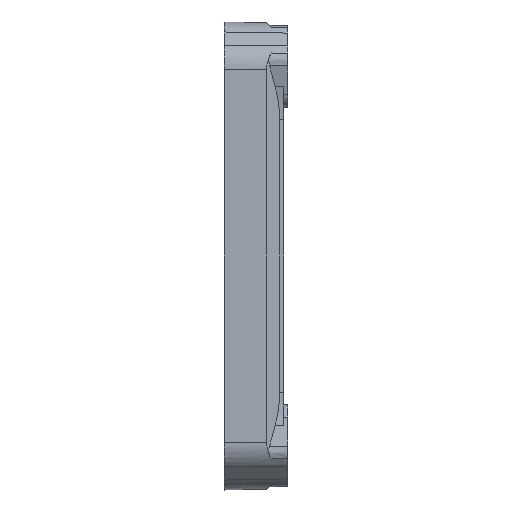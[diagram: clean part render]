
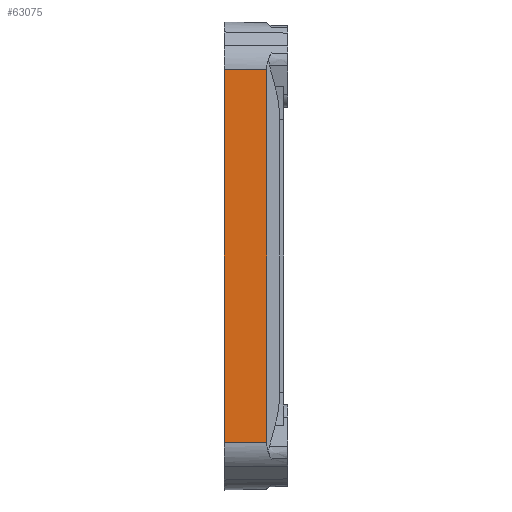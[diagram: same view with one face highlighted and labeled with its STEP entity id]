
A CAD part, left-side view. The second image highlights one B-rep face of the part: STEP entity #63075.
In plain terms, the highlighted planar face has unit normal (-1, -0.018, 0).
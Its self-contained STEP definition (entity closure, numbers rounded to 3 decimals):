
#123 = VERTEX_POINT ( 'NONE', #27839 ) ;
#378 = LINE ( 'NONE', #379, #25651 ) ;
#379 = CARTESIAN_POINT ( 'NONE',  ( -74.825, -10., 47.142 ) ) ;
#3516 = CARTESIAN_POINT ( 'NONE',  ( -74.825, -10., 43.757 ) ) ;
#4997 = LINE ( 'NONE', #42304, #70776 ) ;
#8624 = EDGE_LOOP ( 'NONE', ( #68461, #68052, #39356, #33939 ) ) ;
#14685 = VERTEX_POINT ( 'NONE', #3516 ) ;
#20405 = CARTESIAN_POINT ( 'NONE',  ( -75., 0., 47.142 ) ) ;
#21287 = LINE ( 'NONE', #27147, #36652 ) ;
#25651 = VECTOR ( 'NONE', #74706, 1000. ) ;
#27147 = CARTESIAN_POINT ( 'NONE',  ( -75., 0.024, 43.829 ) ) ;
#27205 = DIRECTION ( 'NONE',  ( 0.017, -1., 0. ) ) ;
#27839 = CARTESIAN_POINT ( 'NONE',  ( -75., 0., -43.829 ) ) ;
#29359 = EDGE_CURVE ( 'NONE', #14685, #56084, #21287, .T. ) ;
#29396 = LINE ( 'NONE', #69046, #40274 ) ;
#31938 = DIRECTION ( 'NONE',  ( -0.017, 1., 0.007 ) ) ;
#33939 = ORIENTED_EDGE ( 'NONE', *, *, #29359, .T. ) ;
#36502 = DIRECTION ( 'NONE',  ( 0.017, -1., 0.007 ) ) ;
#36652 = VECTOR ( 'NONE', #31938, 1000. ) ;
#39356 = ORIENTED_EDGE ( 'NONE', *, *, #68192, .T. ) ;
#40274 = VECTOR ( 'NONE', #57941, 1000. ) ;
#42304 = CARTESIAN_POINT ( 'NONE',  ( -74.989, -0.657, -43.824 ) ) ;
#45703 = CARTESIAN_POINT ( 'NONE',  ( -74.825, -10., -43.757 ) ) ;
#46359 = EDGE_CURVE ( 'NONE', #123, #47634, #4997, .T. ) ;
#47634 = VERTEX_POINT ( 'NONE', #45703 ) ;
#49150 = PLANE ( 'NONE',  #69758 ) ;
#56084 = VERTEX_POINT ( 'NONE', #70863 ) ;
#57941 = DIRECTION ( 'NONE',  ( 0., 0., 1. ) ) ;
#60681 = DIRECTION ( 'NONE',  ( -1., -0.017, 0. ) ) ;
#61982 = FACE_OUTER_BOUND ( 'NONE', #8624, .T. ) ;
#63075 = ADVANCED_FACE ( 'NONE', ( #61982 ), #49150, .T. ) ;
#64874 = EDGE_CURVE ( 'NONE', #123, #56084, #29396, .T. ) ;
#68052 = ORIENTED_EDGE ( 'NONE', *, *, #46359, .T. ) ;
#68192 = EDGE_CURVE ( 'NONE', #47634, #14685, #378, .T. ) ;
#68461 = ORIENTED_EDGE ( 'NONE', *, *, #64874, .F. ) ;
#69046 = CARTESIAN_POINT ( 'NONE',  ( -75., 0., 47.142 ) ) ;
#69758 = AXIS2_PLACEMENT_3D ( 'NONE', #20405, #60681, #27205 ) ;
#70776 = VECTOR ( 'NONE', #36502, 1000. ) ;
#70863 = CARTESIAN_POINT ( 'NONE',  ( -75., 0., 43.829 ) ) ;
#74706 = DIRECTION ( 'NONE',  ( 0., 0., 1. ) ) ;
